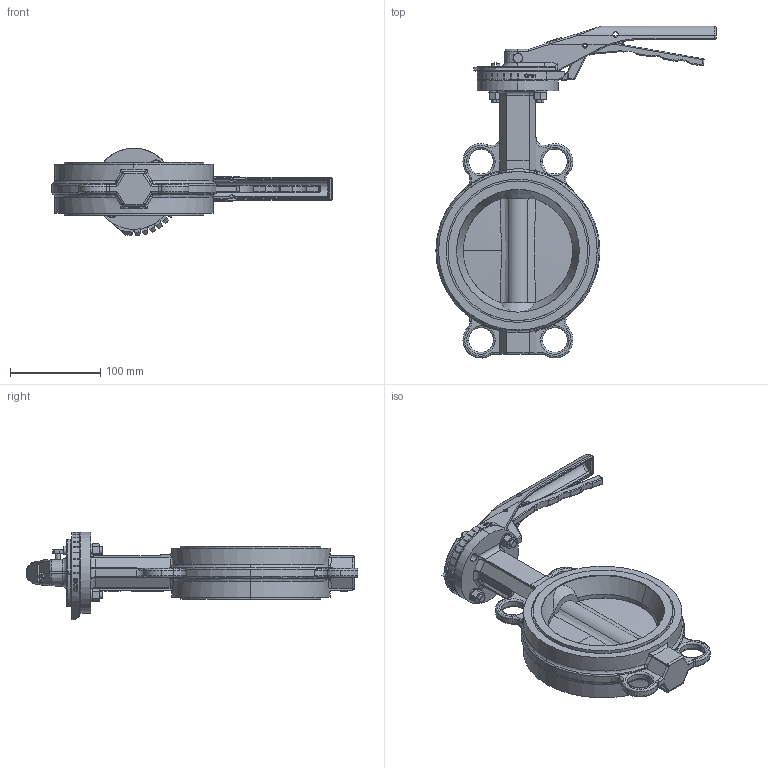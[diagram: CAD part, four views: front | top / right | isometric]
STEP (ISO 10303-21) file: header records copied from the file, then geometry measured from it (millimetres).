
FILE_DESCRIPTION (( 'STEP AP203' ), '1' );
FILE_NAME ('VPE-02 DN 125.STEP', '2016-09-28T14:55:01', ( '' ), ( '' ), 'SwSTEP 2.0', 'SolidWorks 2014', '' );
FILE_SCHEMA (( 'CONFIG_CONTROL_DESIGN' ));
Length unit declared in the file: millimetre
Products named in the file (1): VPE-02 DN 125
Bounding box: 311 x 368.43 x 96.92 mm (x, y, z)
Volume: 1167629.4 mm3; surface area: 250781.7 mm2
Topology: 16 solids, 16 shells, 1476 faces, 3777 edges, 2337 vertices
Faces by surface type: cylinder 481, plane 462, bspline 321, cone 110, torus 62, sphere 40
Entity records: 63080 total; most frequent: CARTESIAN_POINT 30134, ORIENTED_EDGE 7450, DIRECTION 6108, EDGE_CURVE 3725, VERTEX_POINT 2329, AXIS2_PLACEMENT_3D 2239, VECTOR 1630, LINE 1630
